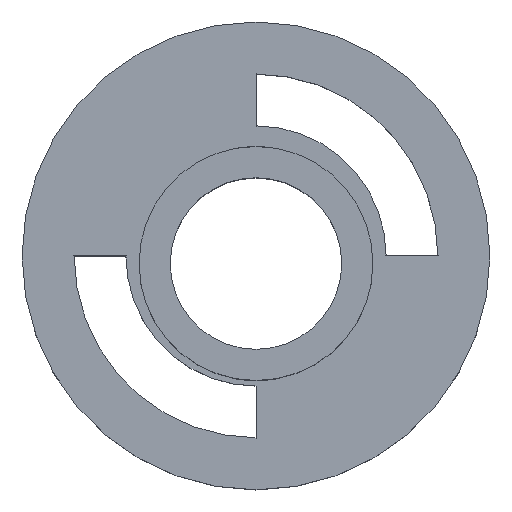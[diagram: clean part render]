
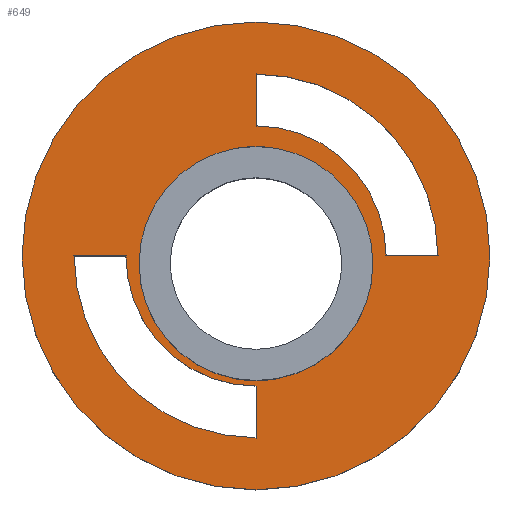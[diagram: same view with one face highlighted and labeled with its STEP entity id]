
A CAD part, top view. The second image highlights one B-rep face of the part: STEP entity #649.
In plain terms, the highlighted planar face has unit normal (0, 0, 1).
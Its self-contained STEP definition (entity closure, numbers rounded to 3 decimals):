
#49 = EDGE_CURVE('',#50,#50,#52,.T.);
#50 = VERTEX_POINT('',#51);
#51 = CARTESIAN_POINT('',(35.,-51.,-158.));
#52 = CIRCLE('',#53,15.);
#53 = AXIS2_PLACEMENT_3D('',#54,#55,#56);
#54 = CARTESIAN_POINT('',(20.,-51.,-158.));
#55 = DIRECTION('',(0.,0.,1.));
#56 = DIRECTION('',(1.,0.,0.));
#649 = ADVANCED_FACE('',(#650,#661,#664,#700),#736,.T.);
#650 = FACE_BOUND('',#651,.T.);
#651 = EDGE_LOOP('',(#652));
#652 = ORIENTED_EDGE('',*,*,#653,.T.);
#653 = EDGE_CURVE('',#654,#654,#656,.T.);
#654 = VERTEX_POINT('',#655);
#655 = CARTESIAN_POINT('',(50.,-50.,-158.));
#656 = CIRCLE('',#657,30.);
#657 = AXIS2_PLACEMENT_3D('',#658,#659,#660);
#658 = CARTESIAN_POINT('',(20.,-50.,-158.));
#659 = DIRECTION('',(0.,0.,1.));
#660 = DIRECTION('',(1.,0.,0.));
#661 = FACE_BOUND('',#662,.T.);
#662 = EDGE_LOOP('',(#663));
#663 = ORIENTED_EDGE('',*,*,#49,.F.);
#664 = FACE_BOUND('',#665,.T.);
#665 = EDGE_LOOP('',(#666,#676,#685,#693));
#666 = ORIENTED_EDGE('',*,*,#667,.F.);
#667 = EDGE_CURVE('',#668,#670,#672,.T.);
#668 = VERTEX_POINT('',#669);
#669 = CARTESIAN_POINT('',(20.,-73.317,-158.));
#670 = VERTEX_POINT('',#671);
#671 = CARTESIAN_POINT('',(20.,-66.683,-158.));
#672 = LINE('',#673,#674);
#673 = CARTESIAN_POINT('',(20.,-60.,-158.));
#674 = VECTOR('',#675,1.);
#675 = DIRECTION('',(0.,1.,0.));
#676 = ORIENTED_EDGE('',*,*,#677,.T.);
#677 = EDGE_CURVE('',#668,#678,#680,.T.);
#678 = VERTEX_POINT('',#679);
#679 = CARTESIAN_POINT('',(-3.317,-50.,-158.));
#680 = CIRCLE('',#681,23.317);
#681 = AXIS2_PLACEMENT_3D('',#682,#683,#684);
#682 = CARTESIAN_POINT('',(20.,-50.,-158.));
#683 = DIRECTION('',(0.,0.,-1.));
#684 = DIRECTION('',(-1.,0.,0.));
#685 = ORIENTED_EDGE('',*,*,#686,.T.);
#686 = EDGE_CURVE('',#678,#687,#689,.T.);
#687 = VERTEX_POINT('',#688);
#688 = CARTESIAN_POINT('',(3.317,-50.,-158.));
#689 = LINE('',#690,#691);
#690 = CARTESIAN_POINT('',(10.,-50.,-158.));
#691 = VECTOR('',#692,1.);
#692 = DIRECTION('',(1.,0.,0.));
#693 = ORIENTED_EDGE('',*,*,#694,.F.);
#694 = EDGE_CURVE('',#670,#687,#695,.T.);
#695 = CIRCLE('',#696,16.683);
#696 = AXIS2_PLACEMENT_3D('',#697,#698,#699);
#697 = CARTESIAN_POINT('',(20.,-50.,-158.));
#698 = DIRECTION('',(0.,0.,-1.));
#699 = DIRECTION('',(-1.,0.,0.));
#700 = FACE_BOUND('',#701,.T.);
#701 = EDGE_LOOP('',(#702,#712,#721,#729));
#702 = ORIENTED_EDGE('',*,*,#703,.F.);
#703 = EDGE_CURVE('',#704,#706,#708,.T.);
#704 = VERTEX_POINT('',#705);
#705 = CARTESIAN_POINT('',(20.,-26.683,-158.));
#706 = VERTEX_POINT('',#707);
#707 = CARTESIAN_POINT('',(20.,-33.317,-158.));
#708 = LINE('',#709,#710);
#709 = CARTESIAN_POINT('',(20.,-40.,-158.));
#710 = VECTOR('',#711,1.);
#711 = DIRECTION('',(0.,-1.,0.));
#712 = ORIENTED_EDGE('',*,*,#713,.T.);
#713 = EDGE_CURVE('',#704,#714,#716,.T.);
#714 = VERTEX_POINT('',#715);
#715 = CARTESIAN_POINT('',(43.317,-50.,-158.));
#716 = CIRCLE('',#717,23.317);
#717 = AXIS2_PLACEMENT_3D('',#718,#719,#720);
#718 = CARTESIAN_POINT('',(20.,-50.,-158.));
#719 = DIRECTION('',(0.,0.,-1.));
#720 = DIRECTION('',(1.,0.,0.));
#721 = ORIENTED_EDGE('',*,*,#722,.T.);
#722 = EDGE_CURVE('',#714,#723,#725,.T.);
#723 = VERTEX_POINT('',#724);
#724 = CARTESIAN_POINT('',(36.683,-50.,-158.));
#725 = LINE('',#726,#727);
#726 = CARTESIAN_POINT('',(30.,-50.,-158.));
#727 = VECTOR('',#728,1.);
#728 = DIRECTION('',(-1.,0.,0.));
#729 = ORIENTED_EDGE('',*,*,#730,.F.);
#730 = EDGE_CURVE('',#706,#723,#731,.T.);
#731 = CIRCLE('',#732,16.683);
#732 = AXIS2_PLACEMENT_3D('',#733,#734,#735);
#733 = CARTESIAN_POINT('',(20.,-50.,-158.));
#734 = DIRECTION('',(0.,0.,-1.));
#735 = DIRECTION('',(1.,0.,0.));
#736 = PLANE('',#737);
#737 = AXIS2_PLACEMENT_3D('',#738,#739,#740);
#738 = CARTESIAN_POINT('',(20.,-50.,-158.));
#739 = DIRECTION('',(0.,0.,1.));
#740 = DIRECTION('',(1.,0.,0.));
